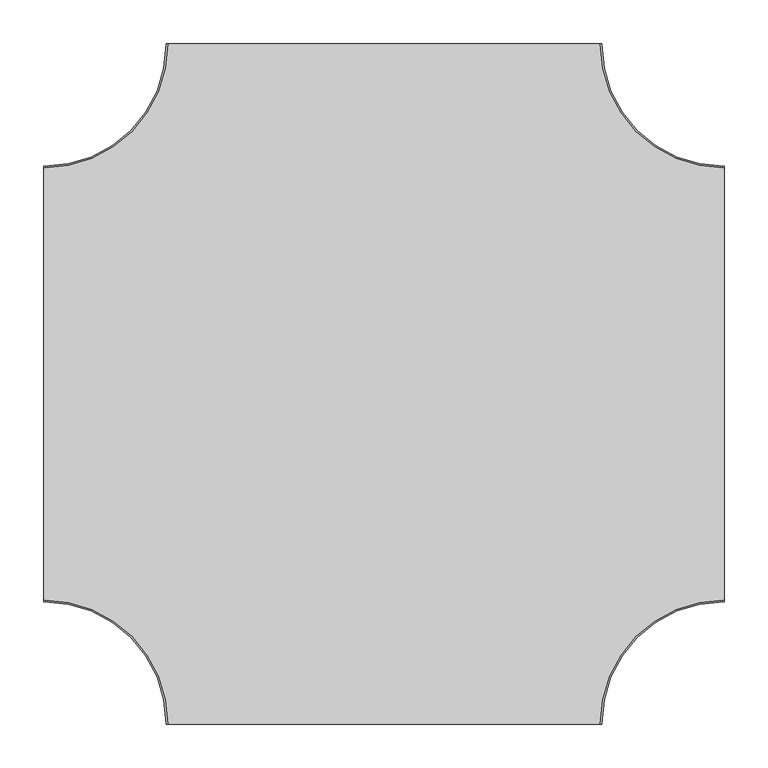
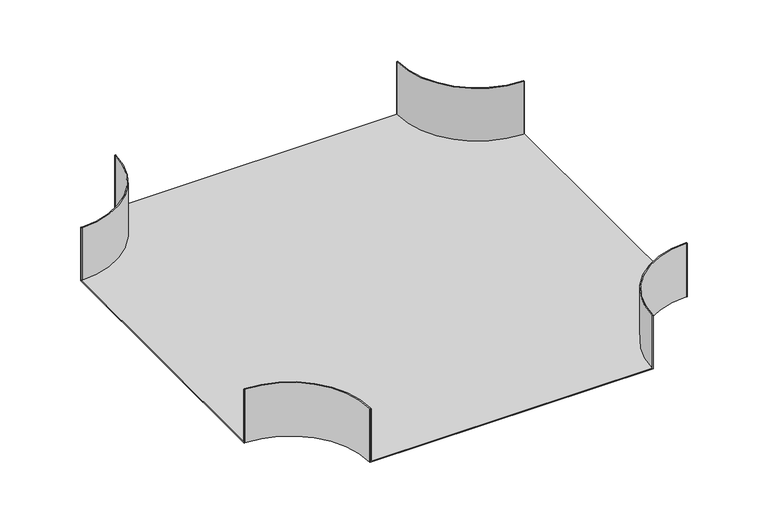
"""IFC4 building model written with IfcOpenShell, lengths in millimetres: cable carrier fitting geometry, BAKS_Horizontal cross over radius : CZKPP_H100."""

from ifc_helpers import new_model, si_unit, frame, origin, place, context, project, spatial, polyline, circle_curve, source, transform, mapped, element, save
from ifc_brep_helpers import plane_surface, cylinder_surface, revolved_surface, advanced_brep


def cable_carrier_fitting_a0d47c04(model_context):
    return source(origin(), model_context, "Body", "AdvancedBrep", [
        advanced_brep(
        [(-250.0, -390.0, 50.0), (-250.0, -391.0, 50.0), (-248.5, -391.0, 50.0), (-248.5, -390.0, 50.0), (-390.0, -248.5, 50.0), (-391.0, -248.5, 50.0), (-391.0, -250.0, 50.0), (-390.0, -250.0, 50.0), (250.0, -390.0, 50.0), (390.0, -250.0, 50.0), (391.0, -250.0, 50.0), (391.0, -248.5, 50.0), (390.0, -248.5, 50.0), (248.5, -390.0, 50.0), (248.5, -391.0, 50.0), (250.0, -391.0, 50.0), (-390.0, 250.0, 50.0), (-391.0, 250.0, 50.0), (-391.0, 248.5, 50.0), (-390.0, 248.5, 50.0), (-248.5, 390.0, 50.0), (-248.5, 391.0, 50.0), (-250.0, 391.0, 50.0), (-250.0, 390.0, 50.0), (248.5, 390.0, 50.0), (390.0, 248.5, 50.0), (391.0, 248.5, 50.0), (391.0, 250.0, 50.0), (390.0, 250.0, 50.0), (250.0, 390.0, 50.0), (250.0, 391.0, 50.0), (248.5, 391.0, 50.0), (-250.0, -390.0, -50.0), (-390.0, -250.0, -50.0), (-391.0, -250.0, -50.0), (-391.0, 250.0, -50.0), (-390.0, 250.0, -50.0), (-250.0, 390.0, -50.0), (-250.0, 391.0, -50.0), (250.0, 391.0, -50.0), (250.0, 390.0, -50.0), (390.0, 250.0, -50.0), (391.0, 250.0, -50.0), (391.0, -250.0, -50.0), (390.0, -250.0, -50.0), (250.0, -390.0, -50.0), (250.0, -391.0, -50.0), (-250.0, -391.0, -50.0), (-250.0, -390.0, -48.5), (248.5, -391.0, -48.5), (-248.5, -391.0, -48.5), (-248.5, -390.0, -48.5), (-390.0, -248.5, -48.5), (-391.0, -248.5, -48.5), (-391.0, 248.5, -48.5), (-390.0, -250.0, -48.5), (250.0, -390.0, -48.5), (390.0, -250.0, -48.5), (391.0, 248.5, -48.5), (391.0, -248.5, -48.5), (390.0, -248.5, -48.5), (248.5, -390.0, -48.5), (390.0, 248.5, -48.5), (248.5, 390.0, -48.5), (248.5, 391.0, -48.5), (-248.5, 391.0, -48.5), (-248.5, 390.0, -48.5), (-390.0, 248.5, -48.5), (-390.0, 250.0, -48.5), (-250.0, 390.0, -48.5), (390.0, 250.0, -48.5), (250.0, 390.0, -48.5)],
        [
            (0, 1),
            (1, 2),
            (2, 3),
            (3, 4, circle_curve(frame((-390.0, -390.0, 50.0), z_axis=(0.0, 0.0, 1.0), x_axis=(1.0, 0.0, 0.0)), 141.5)),
            (4, 5),
            (5, 6),
            (6, 7),
            (7, 0, circle_curve(frame((-390.0, -390.0, 50.0), z_axis=(0.0, 0.0, -1.0), x_axis=(1.0, 0.0, 0.0)), 140.0)),
            (8, 9, circle_curve(frame((390.0, -390.0, 50.0), z_axis=(0.0, 0.0, -1.0), x_axis=(1.0, 0.0, 0.0)), 140.0)),
            (9, 10),
            (10, 11),
            (11, 12),
            (12, 13, circle_curve(frame((390.0, -390.0, 50.0), z_axis=(0.0, 0.0, 1.0), x_axis=(1.0, 0.0, 0.0)), 141.5)),
            (13, 14),
            (14, 15),
            (15, 8),
            (16, 17),
            (17, 18),
            (18, 19),
            (19, 20, circle_curve(frame((-390.0, 390.0, 50.0), z_axis=(0.0, 0.0, 1.0), x_axis=(1.0, 0.0, 0.0)), 141.5)),
            (20, 21),
            (21, 22),
            (22, 23),
            (23, 16, circle_curve(frame((-390.0, 390.0, 50.0), z_axis=(0.0, 0.0, -1.0), x_axis=(1.0, 0.0, 0.0)), 140.0)),
            (24, 25, circle_curve(frame((390.0, 390.0, 50.0), z_axis=(0.0, 0.0, 1.0), x_axis=(1.0, 0.0, 0.0)), 141.5)),
            (25, 26),
            (26, 27),
            (27, 28),
            (28, 29, circle_curve(frame((390.0, 390.0, 50.0), z_axis=(0.0, 0.0, -1.0), x_axis=(1.0, 0.0, 0.0)), 140.0)),
            (29, 30),
            (30, 31),
            (31, 24),
            (32, 33, circle_curve(frame((-390.0, -390.0, -50.0), z_axis=(0.0, 0.0, 1.0), x_axis=(1.0, 0.0, 0.0)), 140.0)),
            (33, 34),
            (34, 35),
            (35, 36),
            (36, 37, circle_curve(frame((-390.0, 390.0, -50.0), z_axis=(0.0, 0.0, 1.0), x_axis=(1.0, 0.0, 0.0)), 140.0)),
            (37, 38),
            (38, 39),
            (39, 40),
            (40, 41, circle_curve(frame((390.0, 390.0, -50.0), z_axis=(0.0, 0.0, 1.0), x_axis=(1.0, 0.0, 0.0)), 140.0)),
            (41, 42),
            (42, 43),
            (43, 44),
            (44, 45, circle_curve(frame((390.0, -390.0, -50.0), z_axis=(0.0, 0.0, 1.0), x_axis=(1.0, 0.0, 0.0)), 140.0)),
            (45, 46),
            (46, 47),
            (47, 32),
            (47, 1),
            (0, 48),
            (48, 32),
            (46, 15),
            (14, 49),
            (49, 50),
            (50, 2),
            (50, 51),
            (51, 3),
            (51, 52, circle_curve(frame((-390.0, -390.0, -48.5), z_axis=(0.0, 0.0, 1.0), x_axis=(1.0, 0.0, 0.0)), 141.5)),
            (52, 4),
            (52, 53),
            (53, 5),
            (53, 54),
            (54, 18),
            (17, 35),
            (34, 6),
            (33, 55),
            (55, 7),
            (8, 56),
            (56, 45),
            (44, 57),
            (57, 9),
            (43, 10),
            (42, 27),
            (26, 58),
            (58, 59),
            (59, 11),
            (59, 60),
            (60, 12),
            (60, 61, circle_curve(frame((390.0, -390.0, -48.5), z_axis=(0.0, 0.0, 1.0), x_axis=(1.0, 0.0, 0.0)), 141.5)),
            (61, 13),
            (61, 49),
            (58, 62),
            (62, 63, circle_curve(frame((390.0, 390.0, -48.5), z_axis=(0.0, 0.0, -1.0), x_axis=(1.0, 0.0, 0.0)), 141.5)),
            (63, 64),
            (64, 65),
            (65, 66),
            (66, 67, circle_curve(frame((-390.0, 390.0, -48.5), z_axis=(0.0, 0.0, -1.0), x_axis=(1.0, 0.0, 0.0)), 141.5)),
            (67, 54),
            (16, 68),
            (68, 36),
            (67, 19),
            (66, 20),
            (65, 21),
            (64, 31),
            (30, 39),
            (38, 22),
            (37, 69),
            (69, 23),
            (24, 63),
            (62, 25),
            (41, 70),
            (70, 28),
            (40, 71),
            (71, 29),
        ],
        [
            plane_surface(frame((-250.0, -390.0, 50.0), z_axis=(0.0, 0.0, 1.0), x_axis=(0.0, -1.0, 0.0))),
            plane_surface(frame((-250.0, -390.0, -50.0), z_axis=(0.0, 0.0, -1.0), x_axis=(0.0, 1.0, 0.0))),
            plane_surface(frame((-250.0, -390.0, 50.0), z_axis=(-1.0, 0.0, 0.0), x_axis=(0.0, 0.0, -1.0))),
            plane_surface(frame((-250.0, -391.0, 50.0), z_axis=(0.0, -1.0, 0.0), x_axis=(0.0, 0.0, -1.0))),
            plane_surface(frame((-248.5, -391.0, 50.0), z_axis=(1.0, 0.0, 0.0), x_axis=(0.0, 0.0, -1.0))),
            cylinder_surface(frame((-390.0, -390.0, -50.0), z_axis=(0.0, 0.0, 1.0), x_axis=(1.0, 0.0, 0.0)), 141.5),
            plane_surface(frame((-390.0, -248.5, 50.0), z_axis=(0.0, 1.0, 0.0), x_axis=(0.0, 0.0, -1.0))),
            plane_surface(frame((-391.0, -248.5, 50.0), z_axis=(-1.0, 0.0, 0.0), x_axis=(0.0, 0.0, -1.0))),
            plane_surface(frame((-391.0, -250.0, 50.0), z_axis=(2.5379698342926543e-12, -1.0, 0.0), x_axis=(0.0, 0.0, -1.0))),
            revolved_surface(polyline([(-250.0, -390.0, -50.0), (-250.0, -390.0, 50.0)]), (-390.0, -390.0, -50.0), (0.0, 0.0, -1.0)),
            revolved_surface(polyline([(530.0, -390.0, -50.0), (530.0, -390.0, 50.0)]), (390.0, -390.0, 0.0), (0.0, 0.0, -1.0)),
            plane_surface(frame((390.0, -250.0, 50.0), z_axis=(-2.5379698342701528e-12, -1.0, 0.0), x_axis=(0.0, 0.0, -1.0))),
            plane_surface(frame((391.0, -250.0, 50.0), z_axis=(1.0, 0.0, 0.0), x_axis=(0.0, 0.0, -1.0))),
            plane_surface(frame((391.0, -248.5, 50.0), z_axis=(0.0, 1.0, 0.0), x_axis=(0.0, 0.0, -1.0))),
            cylinder_surface(frame((390.0, -390.0, 0.0), z_axis=(0.0, 0.0, 1.0), x_axis=(1.0, 0.0, 0.0)), 141.5),
            plane_surface(frame((248.5, -390.0, 50.0), z_axis=(-1.0, 0.0, 0.0), x_axis=(0.0, 0.0, -1.0))),
            plane_surface(frame((250.0, -391.0, 50.0), z_axis=(1.0, 0.0, 0.0), x_axis=(0.0, 0.0, -1.0))),
            plane_surface(frame((-250.0, -390.0, -48.5), z_axis=(0.0, 0.0, 1.0), x_axis=(1.895017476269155e-12, -1.0, 0.0))),
            plane_surface(frame((-390.0, 250.0, 50.0), z_axis=(4.4092995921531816e-11, 1.0, 0.0), x_axis=(0.0, 0.0, -1.0))),
            plane_surface(frame((-391.0, 248.5, 50.0), z_axis=(-4.673248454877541e-11, -1.0, 0.0), x_axis=(0.0, 0.0, -1.0))),
            cylinder_surface(frame((-390.0, 390.0, 0.0), z_axis=(0.0, 0.0, 1.0), x_axis=(1.0, 0.0, 0.0)), 141.5),
            plane_surface(frame((-248.5, 390.0, 50.0), z_axis=(1.0, -1.7934986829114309e-12, 0.0), x_axis=(0.0, 0.0, -1.0))),
            plane_surface(frame((-248.5, 391.0, 50.0), z_axis=(0.0, 1.0, 0.0), x_axis=(0.0, 0.0, -1.0))),
            plane_surface(frame((-250.0, 391.0, 50.0), z_axis=(-1.0, 1.8950174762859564e-12, 0.0), x_axis=(0.0, 0.0, -1.0))),
            revolved_surface(polyline([(-250.0, 390.0, -50.0), (-250.0, 390.0, 50.0)]), (-390.0, 390.0, 0.0), (0.0, 0.0, -1.0)),
            cylinder_surface(frame((390.0, 390.0, 0.0), z_axis=(0.0, 0.0, 1.0), x_axis=(1.0, 0.0, 0.0)), 141.5),
            plane_surface(frame((390.0, 248.5, 50.0), z_axis=(0.0, -1.0, 0.0), x_axis=(0.0, 0.0, -1.0))),
            plane_surface(frame((391.0, 250.0, 50.0), z_axis=(0.0, 1.0, 0.0), x_axis=(0.0, 0.0, -1.0))),
            revolved_surface(polyline([(530.0, 390.0, -50.0), (530.0, 390.0, 50.0)]), (390.0, 390.0, 0.0), (0.0, 0.0, -1.0)),
            plane_surface(frame((250.0, 390.0, 50.0), z_axis=(1.0, 2.0845192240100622e-11, 0.0), x_axis=(0.0, 0.0, -1.0))),
            plane_surface(frame((248.5, 391.0, 50.0), z_axis=(-1.0, -2.145430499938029e-11, 0.0), x_axis=(0.0, 0.0, -1.0))),
        ],
        [
            (0, [[1, 2, 3, 4, 5, 6, 7, 8]]),
            (0, [[9, 10, 11, 12, 13, 14, 15, 16]]),
            (0, [[17, 18, 19, 20, 21, 22, 23, 24]]),
            (0, [[25, 26, 27, 28, 29, 30, 31, 32]]),
            (1, [[33, 34, 35, 36, 37, 38, 39, 40, 41, 42, 43, 44, 45, 46, 47, 48]]),
            (2, [[49, -1, 50, 51, -48]]),
            (3, [[-2, -49, -47, 52, -15, 53, 54, 55]]),
            (4, [[-3, -55, 56, 57]]),
            (5, [[-4, -57, 58, 59]]),
            (6, [[-5, -59, 60, 61]]),
            (7, [[-6, -61, 62, 63, -18, 64, -35, 65]]),
            (8, [[-7, -65, -34, 66, 67]]),
            (9, [[-8, -67, -66, -33, -51, -50]]),
            (10, [[-9, 68, 69, -45, 70, 71]]),
            (11, [[72, -10, -71, -70, -44]]),
            (12, [[-11, -72, -43, 73, -27, 74, 75, 76]]),
            (13, [[-12, -76, 77, 78]]),
            (14, [[-13, -78, 79, 80]]),
            (15, [[-14, -80, 81, -53]]),
            (16, [[-16, -52, -46, -69, -68]]),
            (17, [[-54, -81, -79, -77, -75, 82, 83, 84, 85, 86, 87, 88, -62, -60, -58, -56]]),
            (18, [[-64, -17, 89, 90, -36]]),
            (19, [[-19, -63, -88, 91]]),
            (20, [[-20, -91, -87, 92]]),
            (21, [[-21, -92, -86, 93]]),
            (22, [[-22, -93, -85, 94, -31, 95, -39, 96]]),
            (23, [[-23, -96, -38, 97, 98]]),
            (24, [[-24, -98, -97, -37, -90, -89]]),
            (25, [[-25, 99, -83, 100]]),
            (26, [[-26, -100, -82, -74]]),
            (27, [[-28, -73, -42, 101, 102]]),
            (28, [[-29, -102, -101, -41, 103, 104]]),
            (29, [[-95, -30, -104, -103, -40]]),
            (30, [[-32, -94, -84, -99]]),
        ],
    ),
    ])


if __name__ == "__main__":
    model = new_model("IFC4")
    model_context = context("Model", 3, world=origin())
    ifc_project = project(units=[si_unit("LENGTHUNIT", "METRE", prefix="MILLI")], contexts=[model_context])
    site = spatial("IfcSite", under=ifc_project)
    building = spatial("IfcBuilding", under=site)
    placement = place(None, origin())
    cable_carrier_fitting_shape = cable_carrier_fitting_a0d47c04(model_context)
    element("IfcCableCarrierFitting", 1, ObjectType="BAKS_Horizontal cross over radius : CZKPP_H100", at=placement, inside=building, context=model_context, shape_type="MappedRepresentation", body=[
        mapped(cable_carrier_fitting_shape, transform((0.0, 0.0, 0.0), x_axis=(1.0, 0.0, 0.0), y_axis=(0.0, 1.0, 0.0), z_axis=(0.0, 0.0, 1.0))),
    ])
    save(model, "model.ifc")
